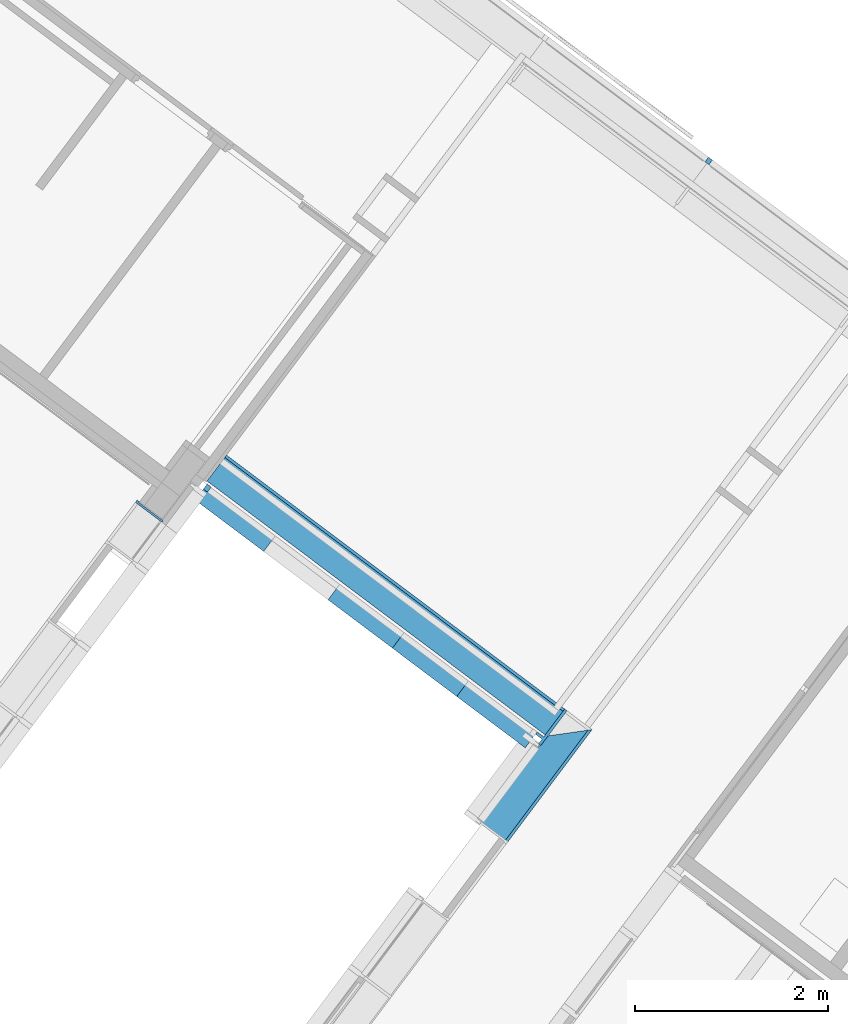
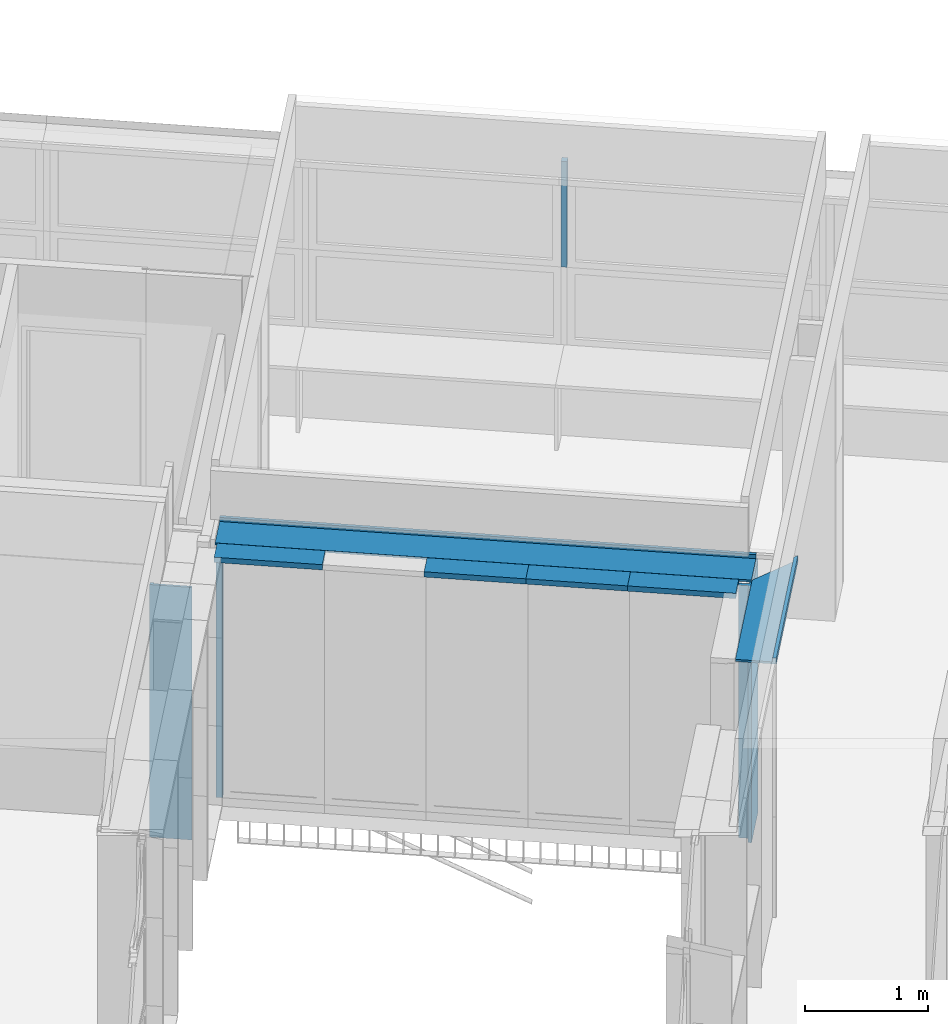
# One storey, part 54 of 243: 10 members, 5 elements without a shape of their own.
"""IFC2X3 building model written with IfcOpenShell, lengths in metres."""

from ifc_helpers import new_model, entity, si_unit, converted_unit, derived_unit, direction, frame, frame_2d, origin, place, context, subcontext, project, spatial, polyline, rectangle, outline, extrude, clip, halfspace, source, transform, mapped, material, type_object, type_shapes, element, aggregate, save


model = new_model("IFC2X3")

# Units and contexts
model_context = context("Model", 3, precision=1e-05, world=origin(), true_north=direction((6.123031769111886e-17, 1.0)))
body_context = subcontext(model_context, "Body", "Model", "MODEL_VIEW")
ifc_project = project(units=[si_unit("LENGTHUNIT", "METRE"), si_unit("AREAUNIT", "SQUARE_METRE"), si_unit("VOLUMEUNIT", "CUBIC_METRE"), converted_unit("PLANEANGLEUNIT", "DEGREE", entity("IfcRatioMeasure", 0.017453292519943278), si_unit("PLANEANGLEUNIT", "RADIAN"), dimensions=[0, 0, 0, 0, 0, 0, 0]), si_unit("MASSUNIT", "GRAM", prefix="KILO"), derived_unit("MASSDENSITYUNIT", [(si_unit("MASSUNIT", "GRAM", prefix="KILO"), 1), (si_unit("LENGTHUNIT", "METRE"), -3)]), derived_unit("IONCONCENTRATIONUNIT", [(si_unit("MASSUNIT", "GRAM", prefix="KILO"), 1), (si_unit("LENGTHUNIT", "METRE"), -3)]), derived_unit("MOMENTOFINERTIAUNIT", [(si_unit("LENGTHUNIT", "METRE"), 4)]), si_unit("TIMEUNIT", "SECOND"), si_unit("FREQUENCYUNIT", "HERTZ"), si_unit("THERMODYNAMICTEMPERATUREUNIT", "DEGREE_CELSIUS"), derived_unit("THERMALTRANSMITTANCEUNIT", [(si_unit("MASSUNIT", "GRAM", prefix="KILO"), 1), (si_unit("THERMODYNAMICTEMPERATUREUNIT", "KELVIN"), -1), (si_unit("TIMEUNIT", "SECOND"), -3)]), derived_unit("THERMALCONDUCTANCEUNIT", [(si_unit("MASSUNIT", "GRAM", prefix="KILO"), 1), (si_unit("THERMODYNAMICTEMPERATUREUNIT", "KELVIN"), -1), (si_unit("TIMEUNIT", "SECOND"), -3), (si_unit("LENGTHUNIT", "METRE"), 1)]), derived_unit("VOLUMETRICFLOWRATEUNIT", [(si_unit("LENGTHUNIT", "METRE"), 3), (si_unit("TIMEUNIT", "SECOND"), -1)]), derived_unit("MASSFLOWRATEUNIT", [(si_unit("MASSUNIT", "GRAM", prefix="KILO"), 1), (si_unit("TIMEUNIT", "SECOND"), -1)]), derived_unit("ROTATIONALFREQUENCYUNIT", [(si_unit("TIMEUNIT", "SECOND"), -1)]), si_unit("ELECTRICCURRENTUNIT", "AMPERE"), si_unit("ELECTRICVOLTAGEUNIT", "VOLT"), si_unit("POWERUNIT", "WATT"), si_unit("FORCEUNIT", "NEWTON", prefix="KILO"), si_unit("ILLUMINANCEUNIT", "LUX"), si_unit("LUMINOUSFLUXUNIT", "LUMEN"), si_unit("LUMINOUSINTENSITYUNIT", "CANDELA"), derived_unit("USERDEFINED", [(si_unit("MASSUNIT", "GRAM", prefix="KILO"), -1), (si_unit("LENGTHUNIT", "METRE"), -2), (si_unit("TIMEUNIT", "SECOND"), 3), (si_unit("LUMINOUSFLUXUNIT", "LUMEN"), 1)]), derived_unit("USERDEFINED", [(si_unit("MASSUNIT", "GRAM", prefix="KILO"), 1), (si_unit("TIMEUNIT", "SECOND"), -3), (si_unit("LENGTHUNIT", "METRE"), 3), (si_unit("ELECTRICCURRENTUNIT", "AMPERE"), -2)]), derived_unit("SOUNDPOWERUNIT", [(si_unit("MASSUNIT", "GRAM", prefix="KILO"), 1), (si_unit("TIMEUNIT", "SECOND"), -3), (si_unit("LENGTHUNIT", "METRE"), 2)]), derived_unit("SOUNDPRESSUREUNIT", [(si_unit("MASSUNIT", "GRAM", prefix="KILO"), 1), (si_unit("LENGTHUNIT", "METRE"), -1), (si_unit("TIMEUNIT", "SECOND"), -2)]), derived_unit("LINEARVELOCITYUNIT", [(si_unit("LENGTHUNIT", "METRE"), 1), (si_unit("TIMEUNIT", "SECOND"), -1)]), si_unit("PRESSUREUNIT", "PASCAL"), derived_unit("USERDEFINED", [(si_unit("MASSUNIT", "GRAM", prefix="KILO"), 1), (si_unit("LENGTHUNIT", "METRE"), -2), (si_unit("TIMEUNIT", "SECOND"), -2)]), derived_unit("LINEARFORCEUNIT", [(si_unit("MASSUNIT", "GRAM", prefix="KILO"), 1), (si_unit("TIMEUNIT", "SECOND"), -2)]), derived_unit("PLANARFORCEUNIT", [(si_unit("MASSUNIT", "GRAM", prefix="KILO"), 1), (si_unit("LENGTHUNIT", "METRE"), -1), (si_unit("TIMEUNIT", "SECOND"), -2)]), derived_unit("SPECIFICHEATCAPACITYUNIT", [(si_unit("THERMODYNAMICTEMPERATUREUNIT", "KELVIN"), -1), (si_unit("LENGTHUNIT", "METRE"), 2), (si_unit("TIMEUNIT", "SECOND"), -2)]), derived_unit("HEATINGVALUEUNIT", [(si_unit("LENGTHUNIT", "METRE"), 2), (si_unit("TIMEUNIT", "SECOND"), -2)]), derived_unit("VAPORPERMEABILITYUNIT", [(si_unit("LENGTHUNIT", "METRE"), -1), (si_unit("TIMEUNIT", "SECOND"), 1)]), derived_unit("DYNAMICVISCOSITYUNIT", [(si_unit("MASSUNIT", "GRAM", prefix="KILO"), 1), (si_unit("TIMEUNIT", "SECOND"), -1), (si_unit("LENGTHUNIT", "METRE"), -1)]), derived_unit("THERMALEXPANSIONCOEFFICIENTUNIT", [(si_unit("THERMODYNAMICTEMPERATUREUNIT", "KELVIN"), -1)]), derived_unit("MODULUSOFELASTICITYUNIT", [(si_unit("MASSUNIT", "GRAM", prefix="KILO"), 1), (si_unit("LENGTHUNIT", "METRE"), -1), (si_unit("TIMEUNIT", "SECOND"), -2)]), derived_unit("ISOTHERMALMOISTURECAPACITYUNIT", [(si_unit("LENGTHUNIT", "METRE"), 3), (si_unit("MASSUNIT", "GRAM", prefix="KILO"), -1)]), derived_unit("MOISTUREDIFFUSIVITYUNIT", [(si_unit("TIMEUNIT", "SECOND"), -1), (si_unit("LENGTHUNIT", "METRE"), 2)])], contexts=[model_context])

# Site, building, storey
site_placement = place(None, frame((0.0, 0.0, 235.0), z_axis=(0.0, 0.0, 1.0), x_axis=(-0.7996477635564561, 0.6004693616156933, 0.0)))
site = spatial("IfcSite", under=ifc_project, at=site_placement, Name="Default", CompositionType="ELEMENT")
building_placement = place(site_placement, origin())
building = spatial("IfcBuilding", under=site, at=building_placement, CompositionType="ELEMENT")
storey_placement = place(building_placement, origin())
storey = spatial("IfcBuildingStorey", under=building, at=storey_placement, Name="P0- Escola", CompositionType="ELEMENT", Elevation=0.0)

# Curtain wall, member
curtain_wall_type_1 = type_object("IfcCurtainWallType", Name="Muro cortina:MC- INT- k7- Aules infantil", PredefinedType="NOTDEFINED")
curtain_wall_1_placement = place(storey_placement, origin())
curtain_wall_1 = element("IfcCurtainWall", 1, at=curtain_wall_1_placement, inside=storey, type_object=curtain_wall_type_1, Name="Muro cortina:MC- INT- k7- Aules infantil", ObjectType="Muro cortina:MC- INT- k7- Aules infantil")
ifc_material_1 = material(Name="_Fusta massisa- T1")
member_type_1 = type_object("IfcMemberType", Name="Montante rectangular:MC- Fusta- 35x3 cm- Pati aules- Remat dreta", PredefinedType="MULLION", material=ifc_material_1)
shared_shape_1 = source(origin(), body_context, "Body", "SweptSolid", [
    extrude(outline(polyline([(-0.22000000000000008, -0.01666666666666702), (0.12500000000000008, -0.01666666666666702), (0.12500000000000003, 0.013333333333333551), (0.09500000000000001, 0.013333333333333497), (0.09499999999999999, 0.003333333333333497), (-0.22, 0.003333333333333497), (-0.22000000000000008, -0.01666666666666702)])), frame((-0.013333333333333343, 0.030000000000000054, -2.504999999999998), z_axis=(0.0, 0.0, 1.0), x_axis=(0.0, -1.0, 0.0)), (0.0, 0.0, 1.0), 2.5049999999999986),
])
type_shapes(member_type_1, [shared_shape_1])
member_1_placement = place(curtain_wall_1_placement, frame((54.045147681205, -35.95318997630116, 0.0), z_axis=(0.0, 0.0, -1.0), x_axis=(0.0, -1.0, 0.0)))
member_1 = element("IfcMember", 2, at=member_1_placement, type_object=member_type_1, material=ifc_material_1, Name="Montante rectangular:MC- Fusta- 35x3 cm- Pati aules- Remat dreta", ObjectType="Montante rectangular:MC- Fusta- 35x3 cm- Pati aules- Remat dreta", context=body_context, shape_type="MappedRepresentation", body=[
    mapped(shared_shape_1, transform((0.0, 0.0, 0.0), scale=1.0)),
])
aggregate(curtain_wall_1, [member_1])

curtain_wall_type_2 = type_object("IfcCurtainWallType", Name="Muro cortina:MC- INT- k2", PredefinedType="NOTDEFINED")
curtain_wall_2_placement = place(storey_placement, origin())
curtain_wall_2 = element("IfcCurtainWall", 3, at=curtain_wall_2_placement, inside=storey, type_object=curtain_wall_type_2, Name="Muro cortina:MC- INT- k2", ObjectType="Muro cortina:MC- INT- k2")
member_type_2 = type_object("IfcMemberType", Name="Montante rectangular:MC- Fusta- 35x3 cm- Pati aules- Remat superior", PredefinedType="MULLION", material=ifc_material_1)
shared_shape_2 = source(origin(), body_context, "Body", "SweptSolid", [
    clip(extrude(outline(polyline([(-0.12166666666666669, -0.02666666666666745), (0.21333333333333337, -0.02666666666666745), (0.21333333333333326, -0.006666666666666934), (-0.09166666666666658, -0.006666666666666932), (-0.0916666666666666, 0.03333333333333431), (-0.12166666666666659, 0.03333333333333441), (-0.12166666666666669, -0.02666666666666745)])), frame((-0.033333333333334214, -0.026666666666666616, -1.3699981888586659), z_axis=(0.0, 0.0, 1.0), x_axis=(0.0, -1.0, 0.0)), (0.0, 0.0, 1.0), 1.4649981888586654), halfspace(frame((0.3048, 0.0, 0.0), z_axis=(0.0, -0.7071067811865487, 0.7071067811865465), x_axis=(0.0, -0.7071067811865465, -0.7071067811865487)), False)),
])
type_shapes(member_type_2, [shared_shape_2])
member_2_placement = place(curtain_wall_2_placement, frame((49.04514768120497, -36.7851899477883, 2.565), z_axis=(0.0, -1.0, 0.0), x_axis=(0.0, 0.0, 1.0)))
member_2 = element("IfcMember", 4, at=member_2_placement, type_object=member_type_2, material=ifc_material_1, Name="Montante rectangular:MC- Fusta- 35x3 cm- Pati aules- Remat superior", ObjectType="Montante rectangular:MC- Fusta- 35x3 cm- Pati aules- Remat superior", context=body_context, shape_type="MappedRepresentation", body=[
    mapped(shared_shape_2, transform((0.0, 0.0, 0.0), scale=1.0)),
])
aggregate(curtain_wall_2, [member_2])

curtain_wall_type_3 = type_object("IfcCurtainWallType", Name="Muro cortina:MC- EXT- MC6", PredefinedType="NOTDEFINED")
curtain_wall_3_placement = place(storey_placement, origin())
curtain_wall_3 = element("IfcCurtainWall", 5, at=curtain_wall_3_placement, inside=storey, type_object=curtain_wall_type_3, Name="Muro cortina:MC- EXT- MC6", ObjectType="Muro cortina:MC- EXT- MC6")
ifc_material_2 = material(Name="_Alumini- T1- Perfil")
member_type_3 = type_object("IfcMemberType", Name="Montante rectangular:MC- Alu- 50x60 cm- Fa pista- Centre", PredefinedType="MULLION", material=ifc_material_2)
shared_shape_3 = source(origin(), body_context, "Body", "SweptSolid", [
    extrude(rectangle(XDim=0.0600000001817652, YDim=0.05, at=frame_2d((8.673617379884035e-18, 0.0), x_axis=(1.0, 0.0))), frame((0.0, -0.030000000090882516, -1.0475000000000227), z_axis=(0.0, 0.0, 1.0), x_axis=(0.0, -1.0, 0.0)), (0.0, 0.0, 1.0), 1.0475000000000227),
])
type_shapes(member_type_3, [shared_shape_3])
member_3_placement = place(curtain_wall_3_placement, frame((51.51814360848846, -42.340191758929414, 1.455), z_axis=(0.0, 0.0, -1.0), x_axis=(1.0, 0.0, 0.0)))
member_3 = element("IfcMember", 6, at=member_3_placement, type_object=member_type_3, material=ifc_material_2, Name="Montante rectangular:MC- Alu- 50x60 cm- Fa pista- Centre", ObjectType="Montante rectangular:MC- Alu- 50x60 cm- Fa pista- Centre", context=body_context, shape_type="MappedRepresentation", body=[
    mapped(shared_shape_3, transform((0.0, 0.0, 0.0), scale=1.0)),
])
aggregate(curtain_wall_3, [member_3])

# Curtain wall, members
curtain_wall_type_4 = type_object("IfcCurtainWallType", Name="Muro cortina:MC- INT- k2", PredefinedType="NOTDEFINED")
curtain_wall_4_placement = place(storey_placement, origin())
curtain_wall_4 = element("IfcCurtainWall", 7, at=curtain_wall_4_placement, inside=storey, type_object=curtain_wall_type_4, Name="Muro cortina:MC- INT- k2", ObjectType="Muro cortina:MC- INT- k2")
member_type_4 = type_object("IfcMemberType", Name="Montante rectangular:MC- Fusta- 35x3 cm- Pati aules- Remat superior", PredefinedType="MULLION", material=ifc_material_1)
shared_shape_4 = source(origin(), body_context, "Body", "SweptSolid", [
    extrude(outline(polyline([(-0.12166666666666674, -0.02666666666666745), (0.21333333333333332, -0.02666666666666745), (0.2133333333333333, -0.006666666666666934), (-0.09166666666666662, -0.006666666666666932), (-0.09166666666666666, 0.03333333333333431), (-0.12166666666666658, 0.03333333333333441), (-0.12166666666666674, -0.02666666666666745)])), frame((-0.033333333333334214, -0.026666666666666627, -4.389999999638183), z_axis=(0.0, 0.0, 1.0), x_axis=(0.0, -1.0, 0.0)), (0.0, 0.0, 1.0), 4.3899999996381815),
])
type_shapes(member_type_4, [shared_shape_4])
member_4_placement = place(curtain_wall_4_placement, frame((53.68014768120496, -36.78518994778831, 2.565), z_axis=(1.0, 0.0, 0.0), x_axis=(0.0, 0.0, 1.0)))
member_4 = element("IfcMember", 8, at=member_4_placement, type_object=member_type_4, material=ifc_material_1, Name="Montante rectangular:MC- Fusta- 35x3 cm- Pati aules- Remat superior", ObjectType="Montante rectangular:MC- Fusta- 35x3 cm- Pati aules- Remat superior", context=body_context, shape_type="MappedRepresentation", body=[
    mapped(shared_shape_4, transform((0.0, 0.0, 0.0), scale=1.0)),
])
member_type_5 = type_object("IfcMemberType", Name="Montante rectangular:MC- Fusta- 45x3 cm- Pati aules- Cantonada", PredefinedType="MULLION", material=ifc_material_1)
shared_shape_5 = source(origin(), body_context, "Body", "SweptSolid", [
    extrude(outline(polyline([(-0.29999999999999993, -0.043750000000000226), (0.15000000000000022, -0.043750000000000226), (0.15000000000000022, -0.01374999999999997), (0.09000000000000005, -0.013749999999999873), (0.08999999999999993, 0.07125000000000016), (0.059999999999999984, 0.0712500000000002), (0.06000000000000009, -0.01374999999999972), (-0.3000000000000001, -0.013750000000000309), (-0.29999999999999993, -0.043750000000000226)])), frame((0.028749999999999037, -0.20500000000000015, -2.5049999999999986), z_axis=(0.0, 0.0, 1.0), x_axis=(0.0, -1.0, 0.0)), (0.0, 0.0, 1.0), 2.5049999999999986),
])
type_shapes(member_type_5, [shared_shape_5])
member_5_placement = place(curtain_wall_4_placement, frame((49.29014768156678, -36.7851899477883, 0.0), z_axis=(0.0, 0.0, -1.0), x_axis=(1.0, 0.0, 0.0)))
member_5 = element("IfcMember", 9, at=member_5_placement, type_object=member_type_5, material=ifc_material_1, Name="Montante rectangular:MC- Fusta- 45x3 cm- Pati aules- Cantonada", ObjectType="Montante rectangular:MC- Fusta- 45x3 cm- Pati aules- Cantonada", context=body_context, shape_type="MappedRepresentation", body=[
    mapped(shared_shape_5, transform((0.0, 0.0, 0.0), scale=1.0)),
])
aggregate(curtain_wall_4, [member_4, member_5])

curtain_wall_type_5 = type_object("IfcCurtainWallType", PredefinedType="NOTDEFINED")
curtain_wall_5_placement = place(storey_placement, origin())
curtain_wall_5 = element("IfcCurtainWall", 10, at=curtain_wall_5_placement, inside=storey, type_object=curtain_wall_type_5)
member_type_6 = type_object("IfcMemberType", Name="Montante rectangular:MC- Alu- 140x52,5 cm- Fa patis- Superior", PredefinedType="MULLION", material=ifc_material_2)
shared_shape_6 = source(origin(), body_context, "Body", "SweptSolid", [
    extrude(outline(polyline([(-0.026333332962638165, -0.021249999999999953), (0.11366666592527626, -0.021249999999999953), (0.11366666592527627, 0.031250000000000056), (-0.08733333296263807, 0.03125000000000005), (-0.0873333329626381, -0.010000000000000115), (-0.026333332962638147, -0.010000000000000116), (-0.026333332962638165, -0.021249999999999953)])), frame((-0.031250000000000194, -0.02733333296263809, -0.885800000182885), z_axis=(0.0, 0.0, 1.0), x_axis=(0.0, -1.0, 0.0)), (0.0, 0.0, 1.0), 0.8858000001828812),
])
type_shapes(member_type_6, [shared_shape_6])
member_6_placement = place(curtain_wall_5_placement, frame((53.66014768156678, -36.4551899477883, 2.545), z_axis=(1.0, 0.0, 0.0), x_axis=(0.0, 0.0, 1.0)))
member_6 = element("IfcMember", 11, at=member_6_placement, type_object=member_type_6, material=ifc_material_2, Name="Montante rectangular:MC- Alu- 140x52,5 cm- Fa patis- Superior", ObjectType="Montante rectangular:MC- Alu- 140x52,5 cm- Fa patis- Superior", context=body_context, shape_type="MappedRepresentation", body=[
    mapped(shared_shape_6, transform((0.0, 0.0, 0.0), scale=1.0)),
])
member_type_7 = type_object("IfcMemberType", Name="Montante rectangular:MC- Alu- 65x52,5 cm- Fa Pati- Porta", PredefinedType="MULLION", material=ifc_material_2)
shared_shape_7 = source(origin(), body_context, "Body", "SweptSolid", [
    extrude(rectangle(XDim=0.06500000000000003, YDim=0.053000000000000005, at=frame_2d((0.0, 3.469446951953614e-18), x_axis=(1.0, 0.0))), frame((-0.026500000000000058, 0.03249999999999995, -2.4274999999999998), z_axis=(0.0, 0.0, 1.0), x_axis=(0.0, -1.0, 0.0)), (0.0, 0.0, 1.0), 2.4274999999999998),
])
type_shapes(member_type_7, [shared_shape_7])
member_7_placement = place(curtain_wall_5_placement, frame((53.66014768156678, -36.4551899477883, 0.06499999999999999), z_axis=(0.0, 0.0, -1.0), x_axis=(1.0, 0.0, 0.0)))
member_7 = element("IfcMember", 12, at=member_7_placement, type_object=member_type_7, material=ifc_material_2, Name="Montante rectangular:MC- Alu- 65x52,5 cm- Fa Pati- Porta", ObjectType="Montante rectangular:MC- Alu- 65x52,5 cm- Fa Pati- Porta", context=body_context, shape_type="MappedRepresentation", body=[
    mapped(shared_shape_7, transform((0.0, 0.0, 0.0), scale=1.0)),
])
member_type_8 = type_object("IfcMemberType", Name="Montante rectangular:MC- Alu- 140x52,5 cm- Fa patis- Superior", PredefinedType="MULLION", material=ifc_material_2)
shared_shape_8 = source(origin(), body_context, "Body", "SweptSolid", [
    extrude(outline(polyline([(-0.026333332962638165, -0.021249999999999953), (0.11366666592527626, -0.021249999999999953), (0.11366666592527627, 0.031250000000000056), (-0.08733333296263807, 0.03125000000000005), (-0.0873333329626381, -0.010000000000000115), (-0.026333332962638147, -0.010000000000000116), (-0.026333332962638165, -0.021249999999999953)])), frame((-0.031250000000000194, -0.02733333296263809, -0.8858000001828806), z_axis=(0.0, 0.0, 1.0), x_axis=(0.0, -1.0, 0.0)), (0.0, 0.0, 1.0), 0.8858000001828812),
])
type_shapes(member_type_8, [shared_shape_8])
member_8_placement = place(curtain_wall_5_placement, frame((50.27594768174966, -36.455189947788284, 2.545), z_axis=(1.0, 0.0, 0.0), x_axis=(0.0, 0.0, 1.0)))
member_8 = element("IfcMember", 13, at=member_8_placement, type_object=member_type_8, material=ifc_material_2, Name="Montante rectangular:MC- Alu- 140x52,5 cm- Fa patis- Superior", ObjectType="Montante rectangular:MC- Alu- 140x52,5 cm- Fa patis- Superior", context=body_context, shape_type="MappedRepresentation", body=[
    mapped(shared_shape_8, transform((0.0, 0.0, 0.0), scale=1.0)),
])
member_type_9 = type_object("IfcMemberType", Name="Montante rectangular:MC- Alu- 140x52,5 cm- Fa patis- Superior", PredefinedType="MULLION", material=ifc_material_2)
shared_shape_9 = source(origin(), body_context, "Body", "SweptSolid", [
    extrude(outline(polyline([(-0.026333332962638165, -0.021249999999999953), (0.11366666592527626, -0.021249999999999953), (0.11366666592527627, 0.031250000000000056), (-0.08733333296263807, 0.03125000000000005), (-0.0873333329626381, -0.010000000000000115), (-0.026333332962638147, -0.010000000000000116), (-0.026333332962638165, -0.021249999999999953)])), frame((-0.031250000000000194, -0.02733333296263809, -0.8327999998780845), z_axis=(0.0, 0.0, 1.0), x_axis=(0.0, -1.0, 0.0)), (0.0, 0.0, 1.0), 0.8327999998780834),
])
type_shapes(member_type_9, [shared_shape_9])
member_9_placement = place(curtain_wall_5_placement, frame((51.10874768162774, -36.45518994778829, 2.545), z_axis=(1.0, 0.0, 0.0), x_axis=(0.0, 0.0, 1.0)))
member_9 = element("IfcMember", 14, at=member_9_placement, type_object=member_type_9, material=ifc_material_2, Name="Montante rectangular:MC- Alu- 140x52,5 cm- Fa patis- Superior", ObjectType="Montante rectangular:MC- Alu- 140x52,5 cm- Fa patis- Superior", context=body_context, shape_type="MappedRepresentation", body=[
    mapped(shared_shape_9, transform((0.0, 0.0, 0.0), scale=1.0)),
])
member_10_placement = place(curtain_wall_5_placement, frame((51.94154768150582, -36.45518994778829, 2.545), z_axis=(1.0, 0.0, 0.0), x_axis=(0.0, 0.0, 1.0)))
member_10 = element("IfcMember", 15, at=member_10_placement, type_object=member_type_9, material=ifc_material_2, Name="Montante rectangular:MC- Alu- 140x52,5 cm- Fa patis- Superior", ObjectType="Montante rectangular:MC- Alu- 140x52,5 cm- Fa patis- Superior", context=body_context, shape_type="MappedRepresentation", body=[
    mapped(shared_shape_9, transform((0.0, 0.0, 0.0), scale=1.0)),
])
aggregate(curtain_wall_5, [member_6, member_7, member_8, member_9, member_10])

save(model, "model.ifc")
